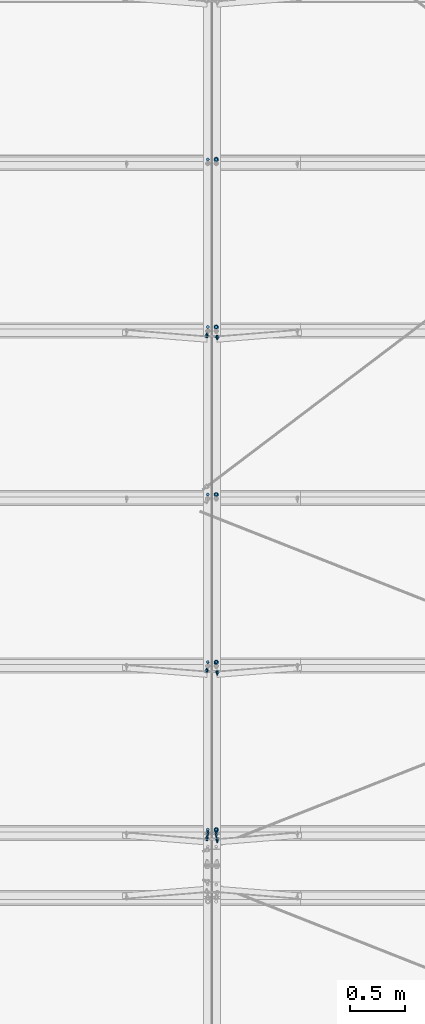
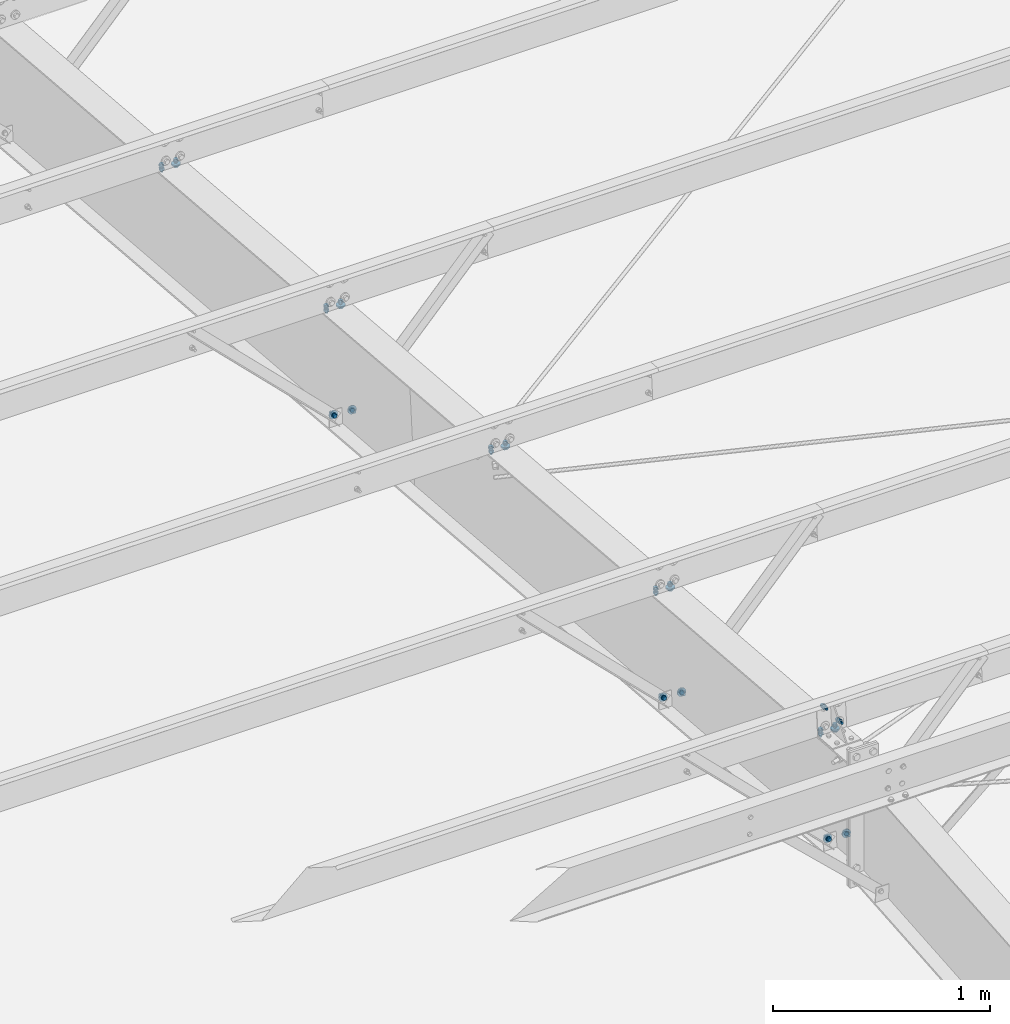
# One storey, part 159 of 185: 24 mechanical fasteners, 13 elements without a shape of their own.
"""IFC2X3 building model written with IfcOpenShell, lengths in millimetres."""

from ifc_helpers import new_model, si_unit, frame, origin_with_axes, origin_2d_with_axis, place, context, subcontext, project, spatial, polyline, circle, outline, extrude, source, transform, mapped, material, type_object, element, aggregate, save


model = new_model("IFC2X3")

# Units and contexts
model_context = context("Model", 3, precision=1e-05, world=origin_with_axes())
body_context = subcontext(model_context, "Body", "Model", "MODEL_VIEW")
ifc_project = project(units=[si_unit("LENGTHUNIT", "METRE", prefix="MILLI"), si_unit("AREAUNIT", "SQUARE_METRE"), si_unit("VOLUMEUNIT", "CUBIC_METRE"), si_unit("MASSUNIT", "GRAM", prefix="KILO"), si_unit("TIMEUNIT", "SECOND"), si_unit("PLANEANGLEUNIT", "RADIAN"), si_unit("SOLIDANGLEUNIT", "STERADIAN"), si_unit("THERMODYNAMICTEMPERATUREUNIT", "DEGREE_CELSIUS"), si_unit("LUMINOUSINTENSITYUNIT", "LUMEN")], contexts=[model_context])

# Site, building, storey
site_placement = place(None, origin_with_axes())
site = spatial("IfcSite", under=ifc_project, at=site_placement, Name="Undefined", CompositionType="ELEMENT")
building_placement = place(site_placement, origin_with_axes())
building = spatial("IfcBuilding", under=site, at=building_placement, Name="Undefined", CompositionType="ELEMENT")
storey_placement = place(building_placement, origin_with_axes())
storey = spatial("IfcBuildingStorey", under=building, at=storey_placement, Name="Undefined", CompositionType="ELEMENT", Elevation=0.0)

# Assembly, mechanical fastener
assembly_1_placement = place(storey_placement, origin_with_axes())
assembly_1 = element("IfcElementAssembly", 1, at=assembly_1_placement, inside=storey, Name="Steel Assembly", AssemblyPlace="NOTDEFINED", PredefinedType="RIGID_FRAME")
ifc_material_1 = material(Name="Undefined")
discrete_accessory_type = type_object("IfcDiscreteAccessoryType", Name="Bolt assembly")
shared_shape_1 = source(origin_with_axes(), body_context, "Body", "SweptSolid", [
    extrude(circle(Radius=7.14374971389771, at=origin_2d_with_axis()), frame((0.0, -1.59000001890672, 0.0), z_axis=(0.0, 1.0, 0.0), x_axis=(1.0, 0.0, 0.0)), (0.0, 0.0, 1.0), 1.7),
    extrude(outline(polyline([(10.9985221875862, 0.0), (5.4992610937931, 9.52499961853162), (-5.4992610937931, 9.52499961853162), (-10.9985221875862, 0.0), (-5.4992610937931, -9.52499961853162), (5.4992610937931, -9.52499961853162), (10.9985221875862, 0.0)])), frame((0.0, -15.0837496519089, 0.0), z_axis=(0.0, 1.0, 0.0), x_axis=(1.0, 0.0, 0.0)), (0.0, 0.0, 1.0), 9.5),
    extrude(circle(Radius=6.34999990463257, at=origin_2d_with_axis()), frame((0.0, -5.5587500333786, 0.0), z_axis=(0.0, 1.0, 0.0), x_axis=(1.0, 0.0, 0.0)), (0.0, 0.0, 1.0), 38.1),
    extrude(circle(Radius=13.4937496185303, at=origin_2d_with_axis()), frame((0.0, -5.5587500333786, 0.0), z_axis=(0.0, 1.0, 0.0), x_axis=(1.0, 0.0, 0.0)), (0.0, 0.0, 1.0), 4.0),
    extrude(circle(Radius=22.2250003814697, at=origin_2d_with_axis()), frame((0.0, 0.0, 0.0), z_axis=(0.0, 1.0, 0.0), x_axis=(1.0, 0.0, 0.0)), (0.0, 0.0, 1.0), 7.9),
    extrude(outline(polyline([(12.8316099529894, 0.0), (6.4158049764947, 11.1125001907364), (-6.4158049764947, 11.1125001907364), (-12.8316099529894, 0.0), (-6.4158049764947, -11.1125001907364), (6.4158049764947, -11.1125001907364), (12.8316099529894, 0.0)])), frame((0.0, 7.93750000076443, 0.0), z_axis=(0.0, 1.0, 0.0), x_axis=(1.0, 0.0, 0.0)), (0.0, 0.0, 1.0), 12.3),
])
mechanical_fastener_1_placement = place(assembly_1_placement, frame((30052.1255043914, 16242.6547918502, 6647.0846052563), z_axis=(-0.697745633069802, -0.0594892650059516, -0.713871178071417), x_axis=(-0.716345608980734, 0.0579446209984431, 0.6953354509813)))
mechanical_fastener_1 = element("IfcMechanicalFastener", 2, at=mechanical_fastener_1_placement, type_object=discrete_accessory_type, material=ifc_material_1, Name="Bolt assembly", NominalDiameter=12.6999998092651, NominalLength=38.0999984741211, context=body_context, shape_type="MappedRepresentation", body=[
    mapped(shared_shape_1, transform((0.0, 0.0, 0.0))),
])
aggregate(assembly_1, [mechanical_fastener_1])

assembly_2_placement = place(storey_placement, origin_with_axes())
assembly_2 = element("IfcElementAssembly", 3, at=assembly_2_placement, inside=storey, Name="Steel Assembly", AssemblyPlace="NOTDEFINED", PredefinedType="RIGID_FRAME")
mechanical_fastener_2_placement = place(assembly_2_placement, frame((30052.1255043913, 17761.3905274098, 6520.52329394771), z_axis=(-0.697745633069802, -0.0594892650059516, -0.713871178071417), x_axis=(-0.716345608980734, 0.0579446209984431, 0.6953354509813)))
mechanical_fastener_2 = element("IfcMechanicalFastener", 4, at=mechanical_fastener_2_placement, type_object=discrete_accessory_type, material=ifc_material_1, Name="Bolt assembly", NominalDiameter=12.6999998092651, NominalLength=38.0999984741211, context=body_context, shape_type="MappedRepresentation", body=[
    mapped(shared_shape_1, transform((0.0, 0.0, 0.0))),
])
aggregate(assembly_2, [mechanical_fastener_2])

assembly_3_placement = place(storey_placement, origin_with_axes())
assembly_3 = element("IfcElementAssembly", 5, at=assembly_3_placement, inside=storey, Name="Steel Assembly", AssemblyPlace="NOTDEFINED", PredefinedType="RIGID_FRAME")
mechanical_fastener_3_placement = place(assembly_3_placement, frame((30052.1255043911, 20798.8619985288, 6267.40067133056), z_axis=(-0.697745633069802, -0.0594892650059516, -0.713871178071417), x_axis=(-0.716345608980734, 0.0579446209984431, 0.6953354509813)))
mechanical_fastener_3 = element("IfcMechanicalFastener", 6, at=mechanical_fastener_3_placement, type_object=discrete_accessory_type, material=ifc_material_1, Name="Bolt assembly", NominalDiameter=12.6999998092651, NominalLength=38.0999984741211, context=body_context, shape_type="MappedRepresentation", body=[
    mapped(shared_shape_1, transform((0.0, 0.0, 0.0))),
])
aggregate(assembly_3, [mechanical_fastener_3])

assembly_4_placement = place(storey_placement, origin_with_axes())
assembly_4 = element("IfcElementAssembly", 7, at=assembly_4_placement, inside=storey, Name="Steel Assembly", AssemblyPlace="NOTDEFINED", PredefinedType="RIGID_FRAME")
shared_shape_2 = source(origin_with_axes(), body_context, "Body", "SweptSolid", [
    extrude(circle(Radius=7.14374971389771, at=origin_2d_with_axis()), frame((0.0, 0.0, 0.0), z_axis=(0.0, 1.0, 0.0), x_axis=(1.0, 0.0, 0.0)), (0.0, 0.0, 1.0), 1.7),
    extrude(outline(polyline([(10.9985221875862, 0.0), (5.4992610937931, 9.52499961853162), (-5.4992610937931, 9.52499961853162), (-10.9985221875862, 0.0), (-5.4992610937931, -9.52499961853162), (5.4992610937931, -9.52499961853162), (10.9985221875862, 0.0)])), frame((0.0, -13.4937496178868, 0.0), z_axis=(0.0, 1.0, 0.0), x_axis=(1.0, 0.0, 0.0)), (0.0, 0.0, 1.0), 9.5),
    extrude(circle(Radius=6.34999990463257, at=origin_2d_with_axis()), frame((0.0, -3.96874999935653, 0.0), z_axis=(0.0, 1.0, 0.0), x_axis=(1.0, 0.0, 0.0)), (0.0, 0.0, 1.0), 38.1),
    extrude(circle(Radius=13.4937496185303, at=origin_2d_with_axis()), frame((0.0, -3.96874999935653, 0.0), z_axis=(0.0, 1.0, 0.0), x_axis=(1.0, 0.0, 0.0)), (0.0, 0.0, 1.0), 4.0),
    extrude(circle(Radius=22.2250003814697, at=origin_2d_with_axis()), frame((0.0, 1.5900000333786, 0.0), z_axis=(0.0, 1.0, 0.0), x_axis=(1.0, 0.0, 0.0)), (0.0, 0.0, 1.0), 7.9),
    extrude(outline(polyline([(12.8316099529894, 0.0), (6.4158049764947, 11.1125001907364), (-6.4158049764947, 11.1125001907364), (-12.8316099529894, 0.0), (-6.4158049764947, -11.1125001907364), (6.4158049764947, -11.1125001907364), (12.8316099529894, 0.0)])), frame((0.0, 9.5275000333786, 0.0), z_axis=(0.0, 1.0, 0.0), x_axis=(1.0, 0.0, 0.0)), (0.0, 0.0, 1.0), 12.3),
])
mechanical_fastener_4_placement = place(assembly_4_placement, frame((30145.874495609, 20798.8619985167, 6267.400671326), z_axis=(0.697745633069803, -0.0594892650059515, -0.713871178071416), x_axis=(0.716345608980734, 0.0579446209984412, 0.6953354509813)))
mechanical_fastener_4 = element("IfcMechanicalFastener", 8, at=mechanical_fastener_4_placement, type_object=discrete_accessory_type, material=ifc_material_1, Name="Bolt assembly", NominalDiameter=12.6999998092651, NominalLength=38.0999984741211, context=body_context, shape_type="MappedRepresentation", body=[
    mapped(shared_shape_2, transform((0.0, 0.0, 0.0))),
])
aggregate(assembly_4, [mechanical_fastener_4])

assembly_5_placement = place(storey_placement, origin_with_axes())
assembly_5 = element("IfcElementAssembly", 9, at=assembly_5_placement, inside=storey, Name="Steel Assembly", AssemblyPlace="NOTDEFINED", PredefinedType="RIGID_FRAME")
mechanical_fastener_5_placement = place(assembly_5_placement, frame((30145.8744956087, 17761.3905273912, 6520.52329394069), z_axis=(0.697745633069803, -0.0594892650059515, -0.713871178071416), x_axis=(0.716345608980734, 0.0579446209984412, 0.6953354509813)))
mechanical_fastener_5 = element("IfcMechanicalFastener", 10, at=mechanical_fastener_5_placement, type_object=discrete_accessory_type, material=ifc_material_1, Name="Bolt assembly", NominalDiameter=12.6999998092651, NominalLength=38.0999984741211, context=body_context, shape_type="MappedRepresentation", body=[
    mapped(shared_shape_2, transform((0.0, 0.0, 0.0))),
])
aggregate(assembly_5, [mechanical_fastener_5])

assembly_6_placement = place(storey_placement, origin_with_axes())
assembly_6 = element("IfcElementAssembly", 11, at=assembly_6_placement, inside=storey, Name="Steel Assembly", AssemblyPlace="NOTDEFINED", PredefinedType="RIGID_FRAME")
mechanical_fastener_6_placement = place(assembly_6_placement, frame((30145.8744956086, 16242.6547918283, 6647.08460524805), z_axis=(0.697745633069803, -0.0594892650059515, -0.713871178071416), x_axis=(0.716345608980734, 0.0579446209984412, 0.6953354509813)))
mechanical_fastener_6 = element("IfcMechanicalFastener", 12, at=mechanical_fastener_6_placement, type_object=discrete_accessory_type, material=ifc_material_1, Name="Bolt assembly", NominalDiameter=12.6999998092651, NominalLength=38.0999984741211, context=body_context, shape_type="MappedRepresentation", body=[
    mapped(shared_shape_2, transform((0.0, 0.0, 0.0))),
])
aggregate(assembly_6, [mechanical_fastener_6])

# Assembly, mechanical fasteners
assembly_7_placement = place(storey_placement, origin_with_axes())
assembly_7 = element("IfcElementAssembly", 13, at=assembly_7_placement, inside=storey, Name="Steel Assembly", AssemblyPlace="NOTDEFINED", PredefinedType="RIGID_FRAME")
ifc_material_2 = material(Name="7990")
shared_shape_3 = source(origin_with_axes(), body_context, "Body", "SweptSolid", [
    extrude(circle(Radius=7.14374971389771, at=origin_2d_with_axis()), frame((0.0, -3.41600000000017, 0.0), z_axis=(0.0, 1.0, 0.0), x_axis=(1.0, 0.0, 0.0)), (0.0, 0.0, 1.0), 3.5),
    extrude(circle(Radius=11.4299998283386, at=origin_2d_with_axis()), frame((0.0, 0.0, 0.0), z_axis=(0.0, 1.0, 0.0), x_axis=(1.0, 0.0, 0.0)), (0.0, 0.0, 1.0), 4.2),
    extrude(outline(polyline([(12.171698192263, 0.0), (6.08584909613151, 10.5409998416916), (-6.08584909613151, 10.5409998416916), (-12.171698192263, 0.0), (-6.08584909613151, -10.5409998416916), (6.08584909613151, -10.5409998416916), (12.171698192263, 0.0)])), frame((0.0, 4.1909999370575, 0.0), z_axis=(0.0, 1.0, 0.0), x_axis=(1.0, 0.0, 0.0)), (0.0, 0.0, 1.0), 8.4),
])
mechanical_fastener_7_placement = place(assembly_7_placement, frame((30145.15815, 16242.5968472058, 6646.38926977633), z_axis=(-0.921635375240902, -0.0322263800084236, -0.386716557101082), x_axis=(0.388056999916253, -0.0765376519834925, -0.918451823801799)))
mechanical_fastener_7 = element("IfcMechanicalFastener", 14, at=mechanical_fastener_7_placement, type_object=discrete_accessory_type, material=ifc_material_2, Name="Bolt assembly", NominalDiameter=12.6999998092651, NominalLength=38.0999984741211, context=body_context, shape_type="MappedRepresentation", body=[
    mapped(shared_shape_3, transform((0.0, 0.0, 0.0))),
])
mechanical_fastener_8_placement = place(assembly_7_placement, frame((30145.15815, 17761.3325827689, 6519.82795847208), z_axis=(-0.921635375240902, -0.0322263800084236, -0.386716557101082), x_axis=(0.388056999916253, -0.0765376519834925, -0.918451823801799)))
mechanical_fastener_8 = element("IfcMechanicalFastener", 15, at=mechanical_fastener_8_placement, type_object=discrete_accessory_type, material=ifc_material_2, Name="Bolt assembly", NominalDiameter=12.6999998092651, NominalLength=38.0999984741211, context=body_context, shape_type="MappedRepresentation", body=[
    mapped(shared_shape_3, transform((0.0, 0.0, 0.0))),
])
mechanical_fastener_9_placement = place(assembly_7_placement, frame((30145.15815, 20798.8040538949, 6266.70533586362), z_axis=(-0.921635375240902, -0.0322263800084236, -0.386716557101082), x_axis=(0.388056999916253, -0.0765376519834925, -0.918451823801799)))
mechanical_fastener_9 = element("IfcMechanicalFastener", 16, at=mechanical_fastener_9_placement, type_object=discrete_accessory_type, material=ifc_material_2, Name="Bolt assembly", NominalDiameter=12.6999998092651, NominalLength=38.0999984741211, context=body_context, shape_type="MappedRepresentation", body=[
    mapped(shared_shape_3, transform((0.0, 0.0, 0.0))),
])
shared_shape_4 = source(origin_with_axes(), body_context, "Body", "SweptSolid", [
    extrude(circle(Radius=7.14374971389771, at=origin_2d_with_axis()), frame((0.0, 0.0, 0.0), z_axis=(0.0, 1.0, 0.0), x_axis=(1.0, 0.0, 0.0)), (0.0, 0.0, 1.0), 3.5),
    extrude(circle(Radius=11.4299998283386, at=origin_2d_with_axis()), frame((0.0, 3.41600000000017, 0.0), z_axis=(0.0, 1.0, 0.0), x_axis=(1.0, 0.0, 0.0)), (0.0, 0.0, 1.0), 4.2),
    extrude(outline(polyline([(12.171698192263, 0.0), (6.08584909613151, 10.5409998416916), (-6.08584909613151, 10.5409998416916), (-12.171698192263, 0.0), (-6.08584909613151, -10.5409998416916), (6.08584909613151, -10.5409998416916), (12.171698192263, 0.0)])), frame((0.0, 7.60699993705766, 0.0), z_axis=(0.0, 1.0, 0.0), x_axis=(1.0, 0.0, 0.0)), (0.0, 0.0, 1.0), 8.4),
])
mechanical_fastener_10_placement = place(assembly_7_placement, frame((30052.84185, 16242.5968472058, 6646.38926977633), z_axis=(0.921635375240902, -0.0322263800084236, -0.386716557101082), x_axis=(-0.388056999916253, -0.0765376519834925, -0.918451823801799)))
mechanical_fastener_10 = element("IfcMechanicalFastener", 17, at=mechanical_fastener_10_placement, type_object=discrete_accessory_type, material=ifc_material_2, Name="Bolt assembly", NominalDiameter=12.6999998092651, NominalLength=38.0999984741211, context=body_context, shape_type="MappedRepresentation", body=[
    mapped(shared_shape_4, transform((0.0, 0.0, 0.0))),
])
mechanical_fastener_11_placement = place(assembly_7_placement, frame((30052.84185, 17761.3325827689, 6519.82795847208), z_axis=(0.921635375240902, -0.0322263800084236, -0.386716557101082), x_axis=(-0.388056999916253, -0.0765376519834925, -0.918451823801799)))
mechanical_fastener_11 = element("IfcMechanicalFastener", 18, at=mechanical_fastener_11_placement, type_object=discrete_accessory_type, material=ifc_material_2, Name="Bolt assembly", NominalDiameter=12.6999998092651, NominalLength=38.0999984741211, context=body_context, shape_type="MappedRepresentation", body=[
    mapped(shared_shape_4, transform((0.0, 0.0, 0.0))),
])
mechanical_fastener_12_placement = place(assembly_7_placement, frame((30052.84185, 20798.8040538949, 6266.70533586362), z_axis=(0.921635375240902, -0.0322263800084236, -0.386716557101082), x_axis=(-0.388056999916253, -0.0765376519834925, -0.918451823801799)))
mechanical_fastener_12 = element("IfcMechanicalFastener", 19, at=mechanical_fastener_12_placement, type_object=discrete_accessory_type, material=ifc_material_2, Name="Bolt assembly", NominalDiameter=12.6999998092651, NominalLength=38.0999984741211, context=body_context, shape_type="MappedRepresentation", body=[
    mapped(shared_shape_4, transform((0.0, 0.0, 0.0))),
])
aggregate(assembly_7, [mechanical_fastener_10, mechanical_fastener_7, mechanical_fastener_11, mechanical_fastener_8, mechanical_fastener_12, mechanical_fastener_9])

assembly_8_placement = place(storey_placement, origin_with_axes())
assembly_8 = element("IfcElementAssembly", 20, at=assembly_8_placement, inside=storey, Name="Steel Assembly", AssemblyPlace="NOTDEFINED", PredefinedType="RIGID_FRAME")
shared_shape_5 = source(origin_with_axes(), body_context, "Body", "SweptSolid", [
    extrude(circle(Radius=7.14374971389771, at=origin_2d_with_axis()), frame((0.0, 0.0, 0.0), z_axis=(0.0, 1.0, 0.0), x_axis=(1.0, 0.0, 0.0)), (0.0, 0.0, 1.0), 6.5),
    extrude(outline(polyline([(10.9985221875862, 0.0), (5.4992610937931, 9.52499961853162), (-5.4992610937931, 9.52499961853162), (-10.9985221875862, 0.0), (-5.4992610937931, -9.52499961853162), (5.4992610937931, -9.52499961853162), (10.9985221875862, 0.0)])), frame((0.0, -13.4937496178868, 0.0), z_axis=(0.0, 1.0, 0.0), x_axis=(1.0, 0.0, 0.0)), (0.0, 0.0, 1.0), 9.5),
    extrude(circle(Radius=6.34999990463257, at=origin_2d_with_axis()), frame((0.0, -3.96874999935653, 0.0), z_axis=(0.0, 1.0, 0.0), x_axis=(1.0, 0.0, 0.0)), (0.0, 0.0, 1.0), 38.1),
    extrude(circle(Radius=13.4937496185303, at=origin_2d_with_axis()), frame((0.0, -3.96874999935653, 0.0), z_axis=(0.0, 1.0, 0.0), x_axis=(1.0, 0.0, 0.0)), (0.0, 0.0, 1.0), 4.0),
    extrude(outline(polyline([(12.8316099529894, 0.0), (6.4158049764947, 11.1125001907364), (-6.4158049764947, 11.1125001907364), (-12.8316099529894, 0.0), (-6.4158049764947, -11.1125001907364), (6.4158049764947, -11.1125001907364), (12.8316099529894, 0.0)])), frame((0.0, 6.35000000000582, 0.0), z_axis=(0.0, 1.0, 0.0), x_axis=(1.0, 0.0, 0.0)), (0.0, 0.0, 1.0), 12.3),
])
mechanical_fastener_13_placement = place(assembly_8_placement, frame((30137.1, 16293.0905915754, 7252.31420222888), z_axis=(-1.0, 0.0, 0.0), x_axis=(0.0, -0.0830454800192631, -0.996545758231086)))
mechanical_fastener_13 = element("IfcMechanicalFastener", 21, at=mechanical_fastener_13_placement, type_object=discrete_accessory_type, material=ifc_material_1, Name="Bolt assembly", NominalDiameter=12.6999998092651, NominalLength=38.0999984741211, context=body_context, shape_type="MappedRepresentation", body=[
    mapped(shared_shape_5, transform((0.0, 0.0, 0.0))),
])
mechanical_fastener_14_placement = place(assembly_8_placement, frame((30060.9, 16301.5280123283, 7353.56325126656), z_axis=(-1.0, 0.0, 0.0), x_axis=(0.0, -0.0830454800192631, -0.996545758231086)))
mechanical_fastener_14 = element("IfcMechanicalFastener", 22, at=mechanical_fastener_14_placement, type_object=discrete_accessory_type, material=ifc_material_1, Name="Bolt assembly", NominalDiameter=12.6999998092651, NominalLength=38.0999984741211, context=body_context, shape_type="MappedRepresentation", body=[
    mapped(shared_shape_5, transform((0.0, 0.0, 0.0))),
])
aggregate(assembly_8, [mechanical_fastener_13, mechanical_fastener_14])

# Assembly, mechanical fastener
assembly_9_placement = place(storey_placement, origin_with_axes())
assembly_9 = element("IfcElementAssembly", 23, at=assembly_9_placement, inside=storey, Name="Steel Assembly", AssemblyPlace="NOTDEFINED", PredefinedType="RIGID_FRAME")
shared_shape_6 = source(origin_with_axes(), body_context, "Body", "SweptSolid", [
    extrude(circle(Radius=7.14374971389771, at=origin_2d_with_axis()), frame((0.0, -0.0238014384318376, 0.0), z_axis=(0.0, 1.0, 0.0), x_axis=(1.0, 0.0, 0.0)), (0.0, 0.0, 1.0), 8.0),
    extrude(circle(Radius=7.14374971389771, at=origin_2d_with_axis()), frame((0.0, -3.08000006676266, 0.0), z_axis=(0.0, 1.0, 0.0), x_axis=(1.0, 0.0, 0.0)), (0.0, 0.0, 1.0), 3.2),
    extrude(circle(Radius=7.14374971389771, at=origin_2d_with_axis()), frame((0.0, -3.08000006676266, 0.0), z_axis=(0.0, 1.0, 0.0), x_axis=(1.0, 0.0, 0.0)), (0.0, 0.0, 1.0), 3.2),
    extrude(outline(polyline([(10.9985221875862, 0.0), (5.4992610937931, 9.52499961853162), (-5.4992610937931, 9.52499961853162), (-10.9985221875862, 0.0), (-5.4992610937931, -9.52499961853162), (5.4992610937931, -9.52499961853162), (10.9985221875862, 0.0)])), frame((0.0, -16.6737496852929, 0.0), z_axis=(0.0, 1.0, 0.0), x_axis=(1.0, 0.0, 0.0)), (0.0, 0.0, 1.0), 9.5),
    extrude(circle(Radius=6.34999990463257, at=origin_2d_with_axis()), frame((0.0, -7.14875006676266, 0.0), z_axis=(0.0, 1.0, 0.0), x_axis=(1.0, 0.0, 0.0)), (0.0, 0.0, 1.0), 38.1),
    extrude(circle(Radius=13.4937496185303, at=origin_2d_with_axis()), frame((0.0, -7.14875006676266, 0.0), z_axis=(0.0, 1.0, 0.0), x_axis=(1.0, 0.0, 0.0)), (0.0, 0.0, 1.0), 4.0),
    extrude(circle(Radius=22.2250003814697, at=origin_2d_with_axis()), frame((0.0, 7.95019856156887, 0.0), z_axis=(0.0, 1.0, 0.0), x_axis=(1.0, 0.0, 0.0)), (0.0, 0.0, 1.0), 7.9),
    extrude(outline(polyline([(12.8316099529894, 0.0), (6.4158049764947, 11.1125001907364), (-6.4158049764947, 11.1125001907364), (-12.8316099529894, 0.0), (-6.4158049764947, -11.1125001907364), (6.4158049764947, -11.1125001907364), (12.8316099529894, 0.0)])), frame((0.0, 15.8876985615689, 0.0), z_axis=(0.0, 1.0, 0.0), x_axis=(1.0, 0.0, 0.0)), (0.0, 0.0, 1.0), 12.3),
])
mechanical_fastener_15_placement = place(assembly_9_placement, frame((30137.1, 22401.7832167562, 6692.28039870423), z_axis=(-1.0, 0.0, 0.0), x_axis=(0.0, 0.996545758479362, -0.0830454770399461)))
mechanical_fastener_15 = element("IfcMechanicalFastener", 24, at=mechanical_fastener_15_placement, type_object=discrete_accessory_type, material=ifc_material_1, Name="Bolt assembly", NominalDiameter=12.6999998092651, NominalLength=38.0999984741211, context=body_context, shape_type="MappedRepresentation", body=[
    mapped(shared_shape_6, transform((0.0, 0.0, 0.0))),
])

assembly_10_placement = place(storey_placement, origin_with_axes())
assembly_10 = element("IfcElementAssembly", 25, at=assembly_10_placement, inside=storey, Name="Steel Assembly", AssemblyPlace="NOTDEFINED", PredefinedType="RIGID_FRAME")
mechanical_fastener_16_placement = place(assembly_10_placement, frame((30137.1, 20883.0474812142, 6818.84171026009), z_axis=(-1.0, 0.0, 0.0), x_axis=(0.0, 0.996545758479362, -0.0830454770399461)))
mechanical_fastener_16 = element("IfcMechanicalFastener", 26, at=mechanical_fastener_16_placement, type_object=discrete_accessory_type, material=ifc_material_1, Name="Bolt assembly", NominalDiameter=12.6999998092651, NominalLength=38.0999984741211, context=body_context, shape_type="MappedRepresentation", body=[
    mapped(shared_shape_6, transform((0.0, 0.0, 0.0))),
])

assembly_11_placement = place(storey_placement, origin_with_axes())
assembly_11 = element("IfcElementAssembly", 27, at=assembly_11_placement, inside=storey, Name="Steel Assembly", AssemblyPlace="NOTDEFINED", PredefinedType="RIGID_FRAME")
mechanical_fastener_17_placement = place(assembly_11_placement, frame((30137.1, 19364.3117456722, 6945.40302181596), z_axis=(-1.0, 0.0, 0.0), x_axis=(0.0, 0.996545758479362, -0.0830454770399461)))
mechanical_fastener_17 = element("IfcMechanicalFastener", 28, at=mechanical_fastener_17_placement, type_object=discrete_accessory_type, material=ifc_material_1, Name="Bolt assembly", NominalDiameter=12.6999998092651, NominalLength=38.0999984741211, context=body_context, shape_type="MappedRepresentation", body=[
    mapped(shared_shape_6, transform((0.0, 0.0, 0.0))),
])

assembly_12_placement = place(storey_placement, origin_with_axes())
assembly_12 = element("IfcElementAssembly", 29, at=assembly_12_placement, inside=storey, Name="Steel Assembly", AssemblyPlace="NOTDEFINED", PredefinedType="RIGID_FRAME")
mechanical_fastener_18_placement = place(assembly_12_placement, frame((30137.1, 17845.5760101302, 7071.96433337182), z_axis=(-1.0, 0.0, 0.0), x_axis=(0.0, 0.996545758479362, -0.0830454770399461)))
mechanical_fastener_18 = element("IfcMechanicalFastener", 30, at=mechanical_fastener_18_placement, type_object=discrete_accessory_type, material=ifc_material_1, Name="Bolt assembly", NominalDiameter=12.6999998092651, NominalLength=38.0999984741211, context=body_context, shape_type="MappedRepresentation", body=[
    mapped(shared_shape_6, transform((0.0, 0.0, 0.0))),
])

assembly_13_placement = place(storey_placement, origin_with_axes())
assembly_13 = element("IfcElementAssembly", 31, at=assembly_13_placement, inside=storey, Name="Steel Assembly", AssemblyPlace="NOTDEFINED", PredefinedType="RIGID_FRAME")
mechanical_fastener_19_placement = place(assembly_13_placement, frame((30137.1, 16326.840274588, 7198.52564492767), z_axis=(-1.0, 0.0, 0.0), x_axis=(0.0, 0.996545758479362, -0.0830454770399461)))
mechanical_fastener_19 = element("IfcMechanicalFastener", 32, at=mechanical_fastener_19_placement, type_object=discrete_accessory_type, material=ifc_material_1, Name="Bolt assembly", NominalDiameter=12.6999998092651, NominalLength=38.0999984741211, context=body_context, shape_type="MappedRepresentation", body=[
    mapped(shared_shape_6, transform((0.0, 0.0, 0.0))),
])

# Mechanical fastener
shared_shape_7 = source(origin_with_axes(), body_context, "Body", "SweptSolid", [
    extrude(circle(Radius=7.14374971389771, at=origin_2d_with_axis()), frame((0.0, -0.0238014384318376, 0.0), z_axis=(0.0, 1.0, 0.0), x_axis=(1.0, 0.0, 0.0)), (0.0, 0.0, 1.0), 8.0),
    extrude(circle(Radius=7.14374971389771, at=origin_2d_with_axis()), frame((0.0, -3.08000006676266, 0.0), z_axis=(0.0, 1.0, 0.0), x_axis=(1.0, 0.0, 0.0)), (0.0, 0.0, 1.0), 3.2),
    extrude(circle(Radius=7.14374971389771, at=origin_2d_with_axis()), frame((0.0, -3.08000006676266, 0.0), z_axis=(0.0, 1.0, 0.0), x_axis=(1.0, 0.0, 0.0)), (0.0, 0.0, 1.0), 3.2),
    extrude(outline(polyline([(10.9985221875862, 0.0), (5.4992610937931, 9.52499961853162), (-5.4992610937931, 9.52499961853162), (-10.9985221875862, 0.0), (-5.4992610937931, -9.52499961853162), (5.4992610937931, -9.52499961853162), (10.9985221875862, 0.0)])), frame((0.0, -16.6737496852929, 0.0), z_axis=(0.0, 1.0, 0.0), x_axis=(1.0, 0.0, 0.0)), (0.0, 0.0, 1.0), 9.5),
    extrude(circle(Radius=6.34999990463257, at=origin_2d_with_axis()), frame((0.0, -7.14875006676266, 0.0), z_axis=(0.0, 1.0, 0.0), x_axis=(1.0, 0.0, 0.0)), (0.0, 0.0, 1.0), 38.1),
    extrude(circle(Radius=13.4937496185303, at=origin_2d_with_axis()), frame((0.0, -7.14875006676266, 0.0), z_axis=(0.0, 1.0, 0.0), x_axis=(1.0, 0.0, 0.0)), (0.0, 0.0, 1.0), 4.0),
    extrude(outline(polyline([(12.8316099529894, 0.0), (6.4158049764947, 11.1125001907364), (-6.4158049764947, 11.1125001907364), (-12.8316099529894, 0.0), (-6.4158049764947, -11.1125001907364), (6.4158049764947, -11.1125001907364), (12.8316099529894, 0.0)])), frame((0.0, 7.95019856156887, 0.0), z_axis=(0.0, 1.0, 0.0), x_axis=(1.0, 0.0, 0.0)), (0.0, 0.0, 1.0), 12.3),
])
mechanical_fastener_20_placement = place(assembly_9_placement, frame((30060.9, 22401.7832167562, 6692.28039870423), z_axis=(-1.0, 0.0, 0.0), x_axis=(0.0, 0.996545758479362, -0.0830454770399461)))
mechanical_fastener_20 = element("IfcMechanicalFastener", 33, at=mechanical_fastener_20_placement, type_object=discrete_accessory_type, material=ifc_material_1, Name="Bolt assembly", NominalDiameter=12.6999998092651, NominalLength=38.0999984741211, context=body_context, shape_type="MappedRepresentation", body=[
    mapped(shared_shape_7, transform((0.0, 0.0, 0.0))),
])

aggregate(assembly_9, [mechanical_fastener_15, mechanical_fastener_20])

mechanical_fastener_21_placement = place(assembly_10_placement, frame((30060.9, 20883.0474812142, 6818.84171026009), z_axis=(-1.0, 0.0, 0.0), x_axis=(0.0, 0.996545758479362, -0.0830454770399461)))
mechanical_fastener_21 = element("IfcMechanicalFastener", 34, at=mechanical_fastener_21_placement, type_object=discrete_accessory_type, material=ifc_material_1, Name="Bolt assembly", NominalDiameter=12.6999998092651, NominalLength=38.0999984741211, context=body_context, shape_type="MappedRepresentation", body=[
    mapped(shared_shape_7, transform((0.0, 0.0, 0.0))),
])

aggregate(assembly_10, [mechanical_fastener_16, mechanical_fastener_21])

mechanical_fastener_22_placement = place(assembly_11_placement, frame((30060.9, 19364.3117456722, 6945.40302181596), z_axis=(-1.0, 0.0, 0.0), x_axis=(0.0, 0.996545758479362, -0.0830454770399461)))
mechanical_fastener_22 = element("IfcMechanicalFastener", 35, at=mechanical_fastener_22_placement, type_object=discrete_accessory_type, material=ifc_material_1, Name="Bolt assembly", NominalDiameter=12.6999998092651, NominalLength=38.0999984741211, context=body_context, shape_type="MappedRepresentation", body=[
    mapped(shared_shape_7, transform((0.0, 0.0, 0.0))),
])

aggregate(assembly_11, [mechanical_fastener_17, mechanical_fastener_22])

mechanical_fastener_23_placement = place(assembly_12_placement, frame((30060.9, 17845.5760101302, 7071.96433337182), z_axis=(-1.0, 0.0, 0.0), x_axis=(0.0, 0.996545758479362, -0.0830454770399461)))
mechanical_fastener_23 = element("IfcMechanicalFastener", 36, at=mechanical_fastener_23_placement, type_object=discrete_accessory_type, material=ifc_material_1, Name="Bolt assembly", NominalDiameter=12.6999998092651, NominalLength=38.0999984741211, context=body_context, shape_type="MappedRepresentation", body=[
    mapped(shared_shape_7, transform((0.0, 0.0, 0.0))),
])

aggregate(assembly_12, [mechanical_fastener_18, mechanical_fastener_23])

mechanical_fastener_24_placement = place(assembly_13_placement, frame((30060.9, 16326.840274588, 7198.52564492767), z_axis=(-1.0, 0.0, 0.0), x_axis=(0.0, 0.996545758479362, -0.0830454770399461)))
mechanical_fastener_24 = element("IfcMechanicalFastener", 37, at=mechanical_fastener_24_placement, type_object=discrete_accessory_type, material=ifc_material_1, Name="Bolt assembly", NominalDiameter=12.6999998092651, NominalLength=38.0999984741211, context=body_context, shape_type="MappedRepresentation", body=[
    mapped(shared_shape_7, transform((0.0, 0.0, 0.0))),
])

aggregate(assembly_13, [mechanical_fastener_19, mechanical_fastener_24])

save(model, "model.ifc")
